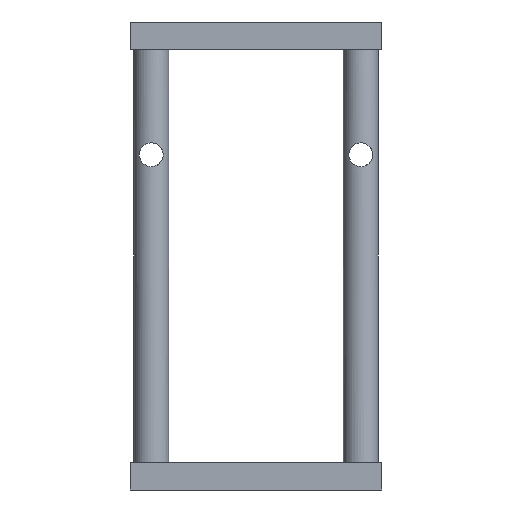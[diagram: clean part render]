
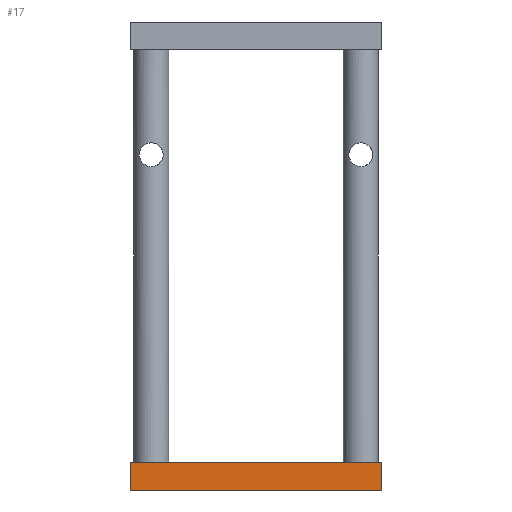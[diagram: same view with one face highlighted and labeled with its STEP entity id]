
A CAD part, left-side view. The second image highlights one B-rep face of the part: STEP entity #17.
In plain terms, the highlighted planar face has unit normal (-1, 0, 0).
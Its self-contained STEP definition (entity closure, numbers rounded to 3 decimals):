
#17 = ADVANCED_FACE('',(#18),#32,.F.);
#18 = FACE_BOUND('',#19,.F.);
#19 = EDGE_LOOP('',(#20,#55,#83,#111));
#20 = ORIENTED_EDGE('',*,*,#21,.F.);
#21 = EDGE_CURVE('',#22,#24,#26,.T.);
#22 = VERTEX_POINT('',#23);
#23 = CARTESIAN_POINT('',(-8.,-18.,0.));
#24 = VERTEX_POINT('',#25);
#25 = CARTESIAN_POINT('',(-8.,-18.,4.));
#26 = SURFACE_CURVE('',#27,(#31,#43),.PCURVE_S1.);
#27 = LINE('',#28,#29);
#28 = CARTESIAN_POINT('',(-8.,-18.,0.));
#29 = VECTOR('',#30,1.);
#30 = DIRECTION('',(0.,0.,1.));
#31 = PCURVE('',#32,#37);
#32 = PLANE('',#33);
#33 = AXIS2_PLACEMENT_3D('',#34,#35,#36);
#34 = CARTESIAN_POINT('',(-8.,-18.,0.));
#35 = DIRECTION('',(1.,0.,-0.));
#36 = DIRECTION('',(0.,0.,1.));
#37 = DEFINITIONAL_REPRESENTATION('',(#38),#42);
#38 = LINE('',#39,#40);
#39 = CARTESIAN_POINT('',(0.,0.));
#40 = VECTOR('',#41,1.);
#41 = DIRECTION('',(1.,0.));
#42 = ( GEOMETRIC_REPRESENTATION_CONTEXT(2) 
PARAMETRIC_REPRESENTATION_CONTEXT() REPRESENTATION_CONTEXT('2D SPACE',''
  ) );
#43 = PCURVE('',#44,#49);
#44 = PLANE('',#45);
#45 = AXIS2_PLACEMENT_3D('',#46,#47,#48);
#46 = CARTESIAN_POINT('',(-8.,-18.,0.));
#47 = DIRECTION('',(-0.,1.,0.));
#48 = DIRECTION('',(0.,0.,1.));
#49 = DEFINITIONAL_REPRESENTATION('',(#50),#54);
#50 = LINE('',#51,#52);
#51 = CARTESIAN_POINT('',(0.,0.));
#52 = VECTOR('',#53,1.);
#53 = DIRECTION('',(1.,0.));
#54 = ( GEOMETRIC_REPRESENTATION_CONTEXT(2) 
PARAMETRIC_REPRESENTATION_CONTEXT() REPRESENTATION_CONTEXT('2D SPACE',''
  ) );
#55 = ORIENTED_EDGE('',*,*,#56,.T.);
#56 = EDGE_CURVE('',#22,#57,#59,.T.);
#57 = VERTEX_POINT('',#58);
#58 = CARTESIAN_POINT('',(-8.,18.,0.));
#59 = SURFACE_CURVE('',#60,(#64,#71),.PCURVE_S1.);
#60 = LINE('',#61,#62);
#61 = CARTESIAN_POINT('',(-8.,-18.,0.));
#62 = VECTOR('',#63,1.);
#63 = DIRECTION('',(-0.,1.,0.));
#64 = PCURVE('',#32,#65);
#65 = DEFINITIONAL_REPRESENTATION('',(#66),#70);
#66 = LINE('',#67,#68);
#67 = CARTESIAN_POINT('',(0.,0.));
#68 = VECTOR('',#69,1.);
#69 = DIRECTION('',(0.,-1.));
#70 = ( GEOMETRIC_REPRESENTATION_CONTEXT(2) 
PARAMETRIC_REPRESENTATION_CONTEXT() REPRESENTATION_CONTEXT('2D SPACE',''
  ) );
#71 = PCURVE('',#72,#77);
#72 = PLANE('',#73);
#73 = AXIS2_PLACEMENT_3D('',#74,#75,#76);
#74 = CARTESIAN_POINT('',(-8.,-18.,0.));
#75 = DIRECTION('',(0.,0.,1.));
#76 = DIRECTION('',(1.,0.,-0.));
#77 = DEFINITIONAL_REPRESENTATION('',(#78),#82);
#78 = LINE('',#79,#80);
#79 = CARTESIAN_POINT('',(0.,0.));
#80 = VECTOR('',#81,1.);
#81 = DIRECTION('',(0.,1.));
#82 = ( GEOMETRIC_REPRESENTATION_CONTEXT(2) 
PARAMETRIC_REPRESENTATION_CONTEXT() REPRESENTATION_CONTEXT('2D SPACE',''
  ) );
#83 = ORIENTED_EDGE('',*,*,#84,.T.);
#84 = EDGE_CURVE('',#57,#85,#87,.T.);
#85 = VERTEX_POINT('',#86);
#86 = CARTESIAN_POINT('',(-8.,18.,4.));
#87 = SURFACE_CURVE('',#88,(#92,#99),.PCURVE_S1.);
#88 = LINE('',#89,#90);
#89 = CARTESIAN_POINT('',(-8.,18.,0.));
#90 = VECTOR('',#91,1.);
#91 = DIRECTION('',(0.,0.,1.));
#92 = PCURVE('',#32,#93);
#93 = DEFINITIONAL_REPRESENTATION('',(#94),#98);
#94 = LINE('',#95,#96);
#95 = CARTESIAN_POINT('',(0.,-36.));
#96 = VECTOR('',#97,1.);
#97 = DIRECTION('',(1.,0.));
#98 = ( GEOMETRIC_REPRESENTATION_CONTEXT(2) 
PARAMETRIC_REPRESENTATION_CONTEXT() REPRESENTATION_CONTEXT('2D SPACE',''
  ) );
#99 = PCURVE('',#100,#105);
#100 = PLANE('',#101);
#101 = AXIS2_PLACEMENT_3D('',#102,#103,#104);
#102 = CARTESIAN_POINT('',(-8.,18.,0.));
#103 = DIRECTION('',(-0.,1.,0.));
#104 = DIRECTION('',(0.,0.,1.));
#105 = DEFINITIONAL_REPRESENTATION('',(#106),#110);
#106 = LINE('',#107,#108);
#107 = CARTESIAN_POINT('',(0.,0.));
#108 = VECTOR('',#109,1.);
#109 = DIRECTION('',(1.,0.));
#110 = ( GEOMETRIC_REPRESENTATION_CONTEXT(2) 
PARAMETRIC_REPRESENTATION_CONTEXT() REPRESENTATION_CONTEXT('2D SPACE',''
  ) );
#111 = ORIENTED_EDGE('',*,*,#112,.F.);
#112 = EDGE_CURVE('',#24,#85,#113,.T.);
#113 = SURFACE_CURVE('',#114,(#118,#125),.PCURVE_S1.);
#114 = LINE('',#115,#116);
#115 = CARTESIAN_POINT('',(-8.,-18.,4.));
#116 = VECTOR('',#117,1.);
#117 = DIRECTION('',(-0.,1.,0.));
#118 = PCURVE('',#32,#119);
#119 = DEFINITIONAL_REPRESENTATION('',(#120),#124);
#120 = LINE('',#121,#122);
#121 = CARTESIAN_POINT('',(4.,0.));
#122 = VECTOR('',#123,1.);
#123 = DIRECTION('',(0.,-1.));
#124 = ( GEOMETRIC_REPRESENTATION_CONTEXT(2) 
PARAMETRIC_REPRESENTATION_CONTEXT() REPRESENTATION_CONTEXT('2D SPACE',''
  ) );
#125 = PCURVE('',#126,#131);
#126 = PLANE('',#127);
#127 = AXIS2_PLACEMENT_3D('',#128,#129,#130);
#128 = CARTESIAN_POINT('',(-8.,-18.,4.));
#129 = DIRECTION('',(0.,0.,1.));
#130 = DIRECTION('',(1.,0.,-0.));
#131 = DEFINITIONAL_REPRESENTATION('',(#132),#136);
#132 = LINE('',#133,#134);
#133 = CARTESIAN_POINT('',(0.,0.));
#134 = VECTOR('',#135,1.);
#135 = DIRECTION('',(0.,1.));
#136 = ( GEOMETRIC_REPRESENTATION_CONTEXT(2) 
PARAMETRIC_REPRESENTATION_CONTEXT() REPRESENTATION_CONTEXT('2D SPACE',''
  ) );
